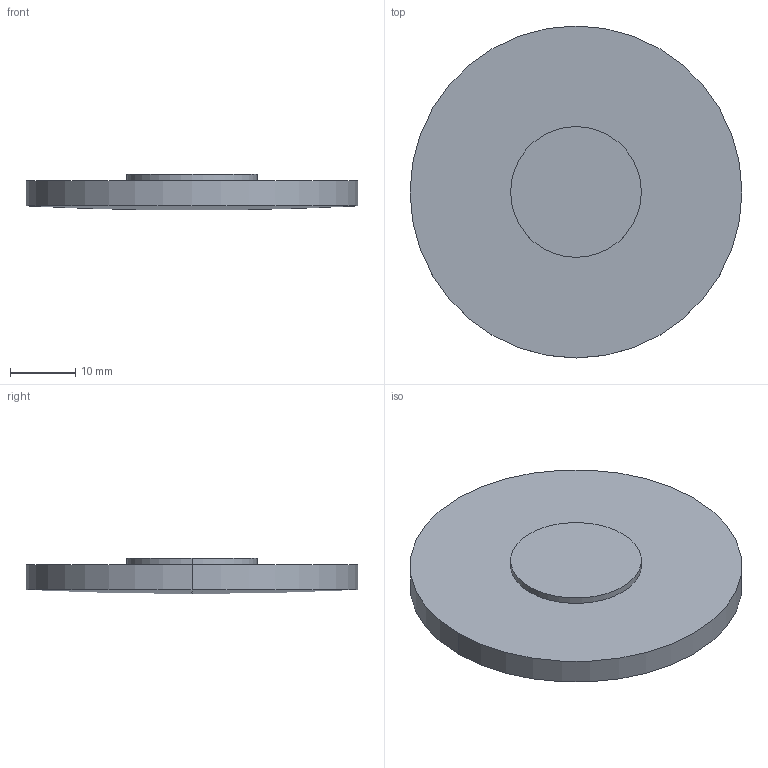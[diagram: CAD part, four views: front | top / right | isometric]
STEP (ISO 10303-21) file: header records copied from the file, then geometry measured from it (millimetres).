
FILE_DESCRIPTION(('STEP AP214'),'1');
FILE_NAME('LLV-51-1M.STEP','2020-03-09T17:42:24',(' '),(' '),'Spatial InterOp 3D',' ',' ');
FILE_SCHEMA(('AUTOMOTIVE_DESIGN { 1 0 10303 214 1 1 1 1 }'));
Length unit declared in the file: millimetre
Products named in the file (1): 1
Bounding box: 50.8 x 50.8 x 5.5 mm (x, y, z)
Volume: 8806 mm3; surface area: 5365.1 mm2
Topology: 2 solids, 2 shells, 9 faces, 16 edges, 9 vertices
Faces by surface type: cylinder 4, plane 3, sphere 2
Entity records: 229 total; most frequent: DIRECTION 46, CARTESIAN_POINT 34, ORIENTED_EDGE 28, AXIS2_PLACEMENT_3D 21, EDGE_CURVE 14, CIRCLE 10, ADVANCED_FACE 9, FACE_OUTER_BOUND 9
